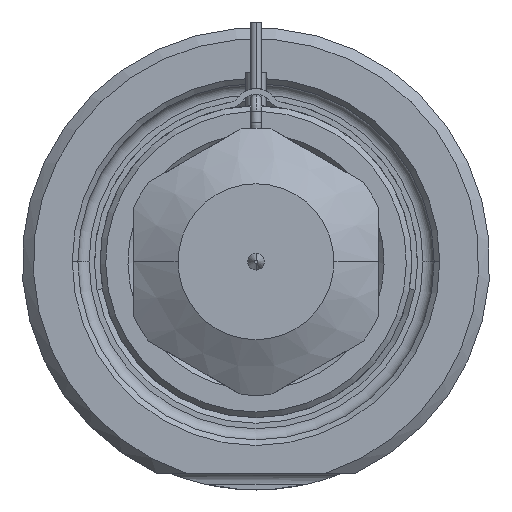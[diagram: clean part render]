
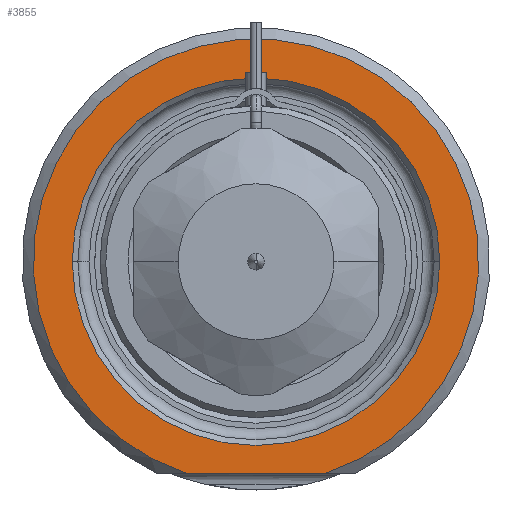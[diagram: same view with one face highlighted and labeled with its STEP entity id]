
A CAD part, front view. The second image highlights one B-rep face of the part: STEP entity #3855.
In plain terms, the highlighted planar face has unit normal (0, -1, 0).
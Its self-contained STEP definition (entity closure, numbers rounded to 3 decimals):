
#1=DIRECTION('',(1.,0.,0.));
#2=VECTOR('',#1,12.49);
#3=CARTESIAN_POINT('',(-6.245,0.,-19.));
#4=LINE('',#3,#2);
#5=CARTESIAN_POINT('',(0.,0.,0.));
#6=DIRECTION('',(0.,1.,0.));
#7=DIRECTION('',(-1.,0.,0.));
#8=AXIS2_PLACEMENT_3D('',#5,#6,#7);
#10=CARTESIAN_POINT('',(0.,0.,0.));
#11=DIRECTION('',(0.,1.,0.));
#12=DIRECTION('',(1.,0.,0.));
#13=AXIS2_PLACEMENT_3D('',#10,#11,#12);
#119=CARTESIAN_POINT('',(0.,0.,0.));
#120=DIRECTION('',(0.,-1.,0.));
#121=DIRECTION('',(0.312,0.,-0.95));
#122=AXIS2_PLACEMENT_3D('',#119,#120,#121);
#3228=CARTESIAN_POINT('',(-16.5,0.,0.));
#3229=CARTESIAN_POINT('',(16.5,0.,0.));
#3230=VERTEX_POINT('',#3228);
#3231=VERTEX_POINT('',#3229);
#3268=CARTESIAN_POINT('',(-6.245,0.,-19.));
#3269=CARTESIAN_POINT('',(6.245,0.,-19.));
#3270=VERTEX_POINT('',#3268);
#3271=VERTEX_POINT('',#3269);
#3838=CARTESIAN_POINT('',(0.,0.,0.));
#3839=DIRECTION('',(0.,-1.,0.));
#3840=DIRECTION('',(1.,0.,0.));
#3841=AXIS2_PLACEMENT_3D('',#3838,#3839,#3840);
#3842=PLANE('',#3841);
#3844=ORIENTED_EDGE('',*,*,#3843,.F.);
#3846=ORIENTED_EDGE('',*,*,#3845,.F.);
#3847=EDGE_LOOP('',(#3844,#3846));
#3848=FACE_OUTER_BOUND('',#3847,.F.);
#3850=ORIENTED_EDGE('',*,*,#3849,.F.);
#3852=ORIENTED_EDGE('',*,*,#3851,.F.);
#3853=EDGE_LOOP('',(#3850,#3852));
#3854=FACE_BOUND('',#3853,.F.);
#3855=ADVANCED_FACE('',(#3848,#3854),#3842,.T.);
#9=CIRCLE('',#8,16.5);
#14=CIRCLE('',#13,16.5);
#123=CIRCLE('',#122,20.);
#3843=EDGE_CURVE('',#3270,#3271,#4,.T.);
#3845=EDGE_CURVE('',#3271,#3270,#123,.T.);
#3849=EDGE_CURVE('',#3230,#3231,#9,.T.);
#3851=EDGE_CURVE('',#3231,#3230,#14,.T.);
